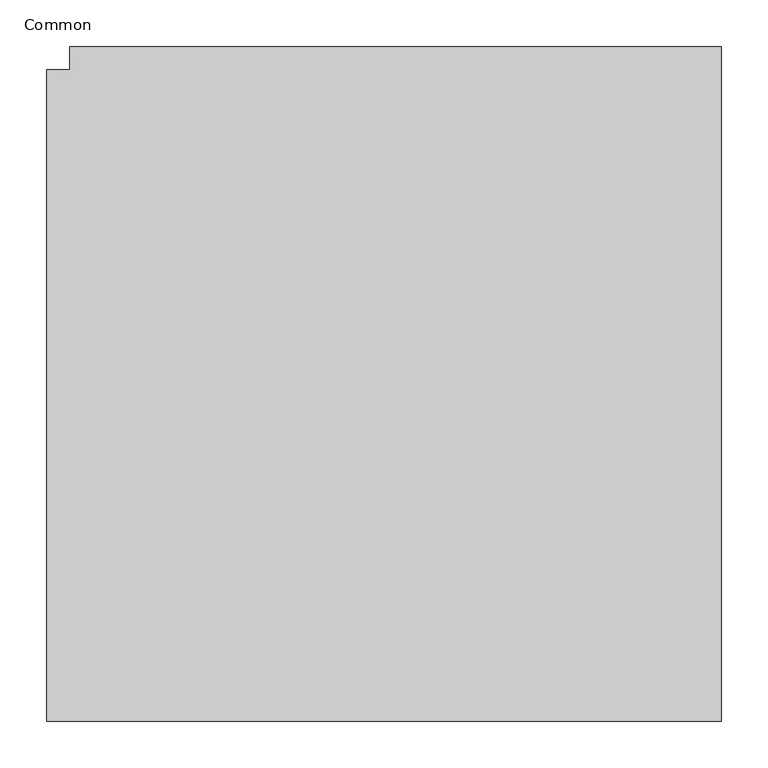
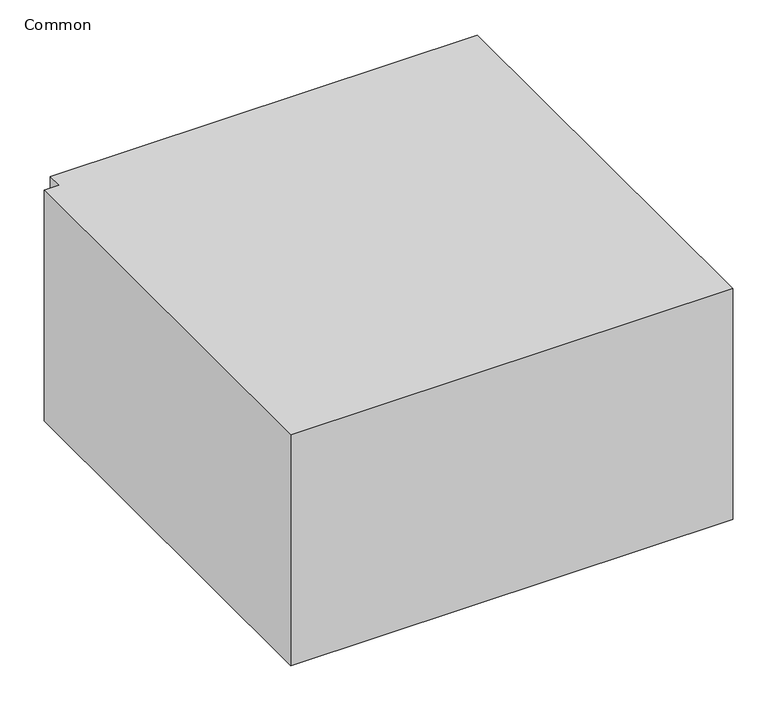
"""IFC4 building model written with IfcOpenShell, lengths in millimetres: duct fitting geometry, 014_角形分割エルボ - 一重ベーン : Common."""

import ifcopenshell
import ifcopenshell.guid

model = None  # the IFC model being written
_history = None  # IfcOwnerHistory: only IFC2X3 demands one
_inside = {}  # id of a spatial element -> (the spatial element, [elements in it])
_under = {}  # id of a project, library or spatial element -> (it, [spatial elements below it])
_declared = {}  # id of a project -> (the project, [libraries it declares])
_typed = {}  # id of a type object -> (the type object, [elements of that type])
_made_of = {}  # id of a material, layer set ... -> (it, [elements and type objects made of it])


def new_model(schema):
    """Start an empty IFC model of exactly this schema.

    Asked for "IFC4X3", IfcOpenShell would pick the latest addendum, in which some entities
    have other attributes; the version numbers below select the first issue.
    IFC2X3 requires an IfcOwnerHistory on every rooted entity: one is made here for all.
    """
    global model, _history
    if schema == "IFC4X3":
        model = ifcopenshell.file(schema_version=(4, 3, 0, 0))
    else:
        model = ifcopenshell.file(schema=schema)
    _inside.clear()
    _under.clear()
    _declared.clear()
    _typed.clear()
    _made_of.clear()
    _history = None
    if model.schema == "IFC2X3":
        org = make("IfcOrganization", Name="unknown")
        user = make(
            "IfcPersonAndOrganization",
            ThePerson=make("IfcPerson", FamilyName="unknown"),
            TheOrganization=org,
        )
        app = make(
            "IfcApplication",
            ApplicationDeveloper=org,
            Version="unknown",
            ApplicationFullName="unknown",
            ApplicationIdentifier="unknown",
        )
        _history = make(
            "IfcOwnerHistory",
            OwningUser=user,
            OwningApplication=app,
            ChangeAction="ADDED",
            CreationDate=0,
        )
    return model


def make(cls, **values):
    """One entity of the class cls with the attributes given. An attribute that is None is left unset."""
    return model.create_entity(
        cls, **{name: value for name, value in values.items() if value is not None}
    )


def rooted(cls, **values):
    """An entity with a GlobalId (a new one), such as an element, a storey or a relation."""
    return make(cls, GlobalId=ifcopenshell.guid.new(), OwnerHistory=_history, **values)


def si_unit(unit_type, name, prefix=None):
    """IfcSIUnit, for example si_unit("LENGTHUNIT", "METRE", prefix="MILLI")."""
    return make("IfcSIUnit", UnitType=unit_type, Prefix=prefix, Name=name)


def assignment(units):
    """IfcUnitAssignment: the units of a project."""
    return None if units is None else make("IfcUnitAssignment", Units=units)


def point(xyz):
    """IfcCartesianPoint."""
    return None if xyz is None else make("IfcCartesianPoint", Coordinates=xyz)


def direction(xyz):
    """IfcDirection."""
    return None if xyz is None else make("IfcDirection", DirectionRatios=xyz)


def frame(location, z_axis=None, x_axis=None):
    """IfcAxis2Placement3D, a coordinate frame: its origin and axes. An axis left out is left unset."""
    return make(
        "IfcAxis2Placement3D",
        Location=point(location),
        Axis=direction(z_axis),
        RefDirection=direction(x_axis),
    )


def origin():
    """The frame at (0, 0, 0) with its axes left unset."""
    return frame((0.0, 0.0, 0.0))


def place(relative_to, where):
    """IfcLocalPlacement: puts the frame where relative to a parent placement (None: the world)."""
    return make(
        "IfcLocalPlacement", PlacementRelTo=relative_to, RelativePlacement=where
    )


def context(
    kind, dimensions, precision=None, world=None, true_north=None, identifier=None
):
    """IfcGeometricRepresentationContext, for example the 3D "Model" context."""
    return make(
        "IfcGeometricRepresentationContext",
        ContextIdentifier=identifier,
        ContextType=kind,
        CoordinateSpaceDimension=dimensions,
        Precision=precision,
        WorldCoordinateSystem=world,
        TrueNorth=true_north,
    )


def project(units=None, contexts=None):
    """IfcProject with its units and contexts."""
    return rooted(
        "IfcProject",
        Name="project",
        RepresentationContexts=contexts,
        UnitsInContext=assignment(units),
    )


def spatial(cls, under=None, at=None, **own):
    """A site, building, storey or space (cls), placed at a placement, below another one or the project."""
    s = rooted(cls, ObjectPlacement=at, **own)
    if under is not None:
        _under.setdefault(under.id(), (under, []))[1].append(s)
    return s


def polyline(points):
    """IfcPolyline through the points."""
    return make("IfcPolyline", Points=[point(p) for p in points])


def outline(outer, holes=None, kind="AREA"):
    """IfcArbitraryClosedProfileDef: a profile drawn as a closed curve; with holes, ...WithVoids."""
    if holes is None:
        return make("IfcArbitraryClosedProfileDef", ProfileType=kind, OuterCurve=outer)
    return make(
        "IfcArbitraryProfileDefWithVoids",
        ProfileType=kind,
        OuterCurve=outer,
        InnerCurves=holes,
    )


def extrude(swept, where, along, depth):
    """IfcExtrudedAreaSolid: the profile swept, set in the frame where, extruded along a direction by depth."""
    return make(
        "IfcExtrudedAreaSolid",
        SweptArea=swept,
        Position=where,
        ExtrudedDirection=direction(along),
        Depth=depth,
    )


def shape(context_of_items, identifier, shape_type, items):
    """IfcShapeRepresentation: the items that make up one representation, for example the "Body"."""
    return make(
        "IfcShapeRepresentation",
        ContextOfItems=context_of_items,
        RepresentationIdentifier=identifier,
        RepresentationType=shape_type,
        Items=items,
    )


def source(mapping_origin, context_of_items, identifier, shape_type, items):
    """IfcRepresentationMap: a shape defined once, which mapped items show again and again."""
    return make(
        "IfcRepresentationMap",
        MappingOrigin=mapping_origin,
        MappedRepresentation=shape(context_of_items, identifier, shape_type, items),
    )


def transform(
    local_origin,
    x_axis=None,
    y_axis=None,
    z_axis=None,
    scale=None,
    scale2=None,
    scale3=None,
    uniform=True,
):
    """IfcCartesianTransformationOperator3D, or its non-uniform kind. x_axis, y_axis, z_axis: its Axis1, 2, 3."""
    if uniform:
        return make(
            "IfcCartesianTransformationOperator3D",
            Axis1=direction(x_axis),
            Axis2=direction(y_axis),
            LocalOrigin=point(local_origin),
            Scale=scale,
            Axis3=direction(z_axis),
        )
    return make(
        "IfcCartesianTransformationOperator3DnonUniform",
        Axis1=direction(x_axis),
        Axis2=direction(y_axis),
        LocalOrigin=point(local_origin),
        Scale=scale,
        Axis3=direction(z_axis),
        Scale2=scale2,
        Scale3=scale3,
    )


def mapped(mapping_source, mapping_target):
    """IfcMappedItem: shows the shape of a source again, moved by a transform."""
    return make(
        "IfcMappedItem", MappingSource=mapping_source, MappingTarget=mapping_target
    )


def made_of(thing, what):
    """Note that an element or type object is made of a material, layer set ...; save() writes the relation."""
    if what is not None:
        _made_of.setdefault(what.id(), (what, []))[1].append(thing)
    return thing


def element(
    cls,
    number,
    at=None,
    inside=None,
    cuts=None,
    type_object=None,
    material=None,
    context=None,
    identifier="Body",
    shape_type=None,
    held_by="IfcProductDefinitionShape",
    body=None,
    shapes=None,
    **own,
):
    """One element of the class cls, such as IfcWall. Its Tag is "e" and its number.

    at: its placement. inside: the storey or other place that contains it. cuts: it is an
    opening in that element (IfcRelVoidsElement). A single representation is given by context,
    identifier, shape_type and body (its items); several are given by shapes. held_by: the class
    of the entity that holds the representations. save() writes the other relations.
    """
    e = rooted(cls, Tag="e%d" % number, ObjectPlacement=at, **own)
    if body is not None:
        shapes = [shape(context, identifier, shape_type, body)]
    if shapes is not None:
        e.Representation = make(held_by, Representations=shapes)
    if inside is not None:
        _inside.setdefault(inside.id(), (inside, []))[1].append(e)
    if cuts is not None:
        rooted(
            "IfcRelVoidsElement", RelatingBuildingElement=cuts, RelatedOpeningElement=e
        )
    if type_object is not None:
        _typed.setdefault(type_object.id(), (type_object, []))[1].append(e)
    return made_of(e, material)


def aggregate(whole, parts):
    """IfcRelAggregates: a whole, such as a stair, and the parts it consists of."""
    return rooted("IfcRelAggregates", RelatingObject=whole, RelatedObjects=parts)


def save(model, path):
    """Write the relations noted so far, then the file.

    IfcRelAggregates (storeys below a building ...), IfcRelContainedInSpatialStructure (elements
    in a storey), IfcRelDefinesByType, IfcRelAssociatesMaterial and IfcRelDeclares: one each for
    every whole, place, type object, material and project.
    """
    for whole, parts in _under.values():
        aggregate(whole, parts)
    for where, things in _inside.values():
        rooted(
            "IfcRelContainedInSpatialStructure",
            RelatedElements=things,
            RelatingStructure=where,
        )
    for kind, things in _typed.values():
        rooted("IfcRelDefinesByType", RelatedObjects=things, RelatingType=kind)
    for what, things in _made_of.values():
        rooted("IfcRelAssociatesMaterial", RelatedObjects=things, RelatingMaterial=what)
    for by, libraries in _declared.values():
        rooted("IfcRelDeclares", RelatingContext=by, RelatedDefinitions=libraries)
    model.write(path)


def common_38ce760e(model_context):
    return source(origin(), model_context, "Body", "SweptSolid", [
        extrude(outline(polyline([(-375.0, -350.0), (-375.0, 350.0), (-350.0, 350.0), (-350.0, 375.0), (350.0, 375.0), (350.0, -350.0), (-375.0, -350.0)])), frame((0.0, 0.0, -200.0), z_axis=(0.0, 0.0, 1.0), x_axis=(1.0, 0.0, 0.0)), (0.0, 0.0, 1.0), 400.0),
    ])


if __name__ == "__main__":
    model = new_model("IFC4")
    model_context = context("Model", 3, world=origin())
    ifc_project = project(units=[si_unit("LENGTHUNIT", "METRE", prefix="MILLI")], contexts=[model_context])
    site = spatial("IfcSite", under=ifc_project)
    building = spatial("IfcBuilding", under=site)
    placement = place(None, origin())
    common_shape = common_38ce760e(model_context)
    element("IfcDuctFitting", 1, ObjectType="014_角形分割エルボ - 一重ベーン : Common", at=placement, inside=building, context=model_context, shape_type="MappedRepresentation", body=[
        mapped(common_shape, transform((0.0, 0.0, 0.0), x_axis=(1.0, 0.0, 0.0), y_axis=(0.0, 1.0, 0.0), z_axis=(0.0, 0.0, 1.0))),
    ])
    save(model, "model.ifc")
